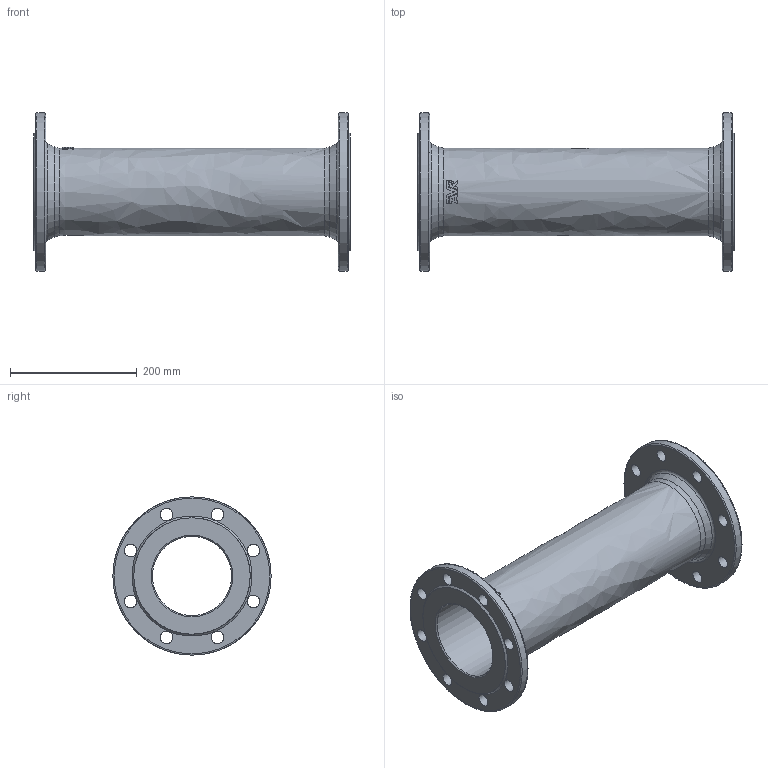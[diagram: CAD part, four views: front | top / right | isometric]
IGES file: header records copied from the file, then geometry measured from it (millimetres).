
Start section: SolidWorks IGES file using analytic representation for surfaces
Global section: file name: \\avksan2\techshare\PBM outline export from Enovia\O_712_4810_DN125_1X_REV01.igs; native system: SolidWorks 2019; preprocessor: SolidWorks 2019; author: pbm; date: 211201.112605; units: millimetre
Bounding box: 500 x 250 x 250 mm (x, y, z)
Surface area: 563286 mm2 (no closed solid volume)
Topology: 0 solids, 0 shells, 81 faces, 420 edges, 369 vertices
Faces by surface type: bspline 43, revolution 38
